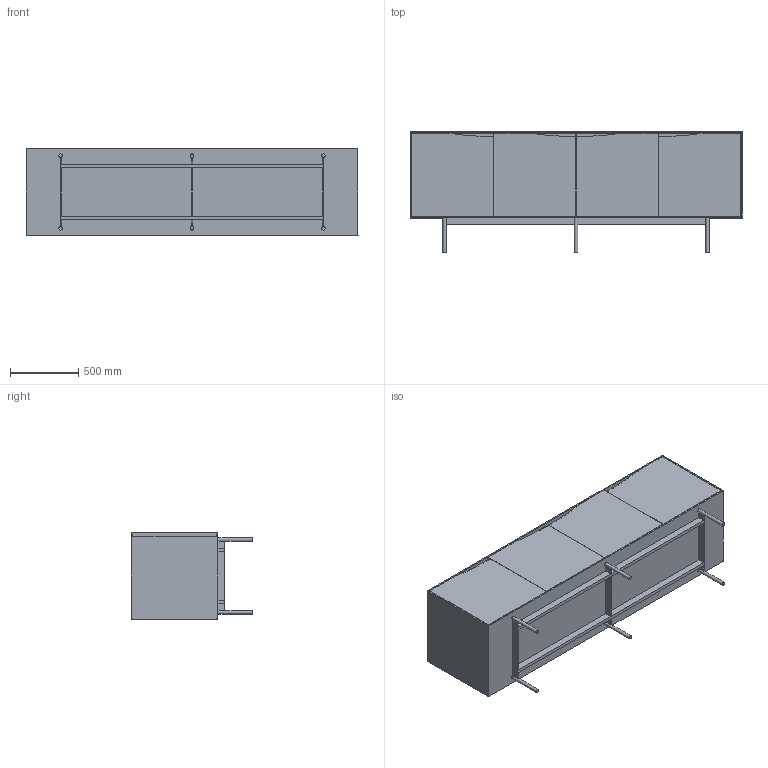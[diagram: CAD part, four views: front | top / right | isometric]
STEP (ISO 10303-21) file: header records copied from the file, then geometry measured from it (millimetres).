
FILE_DESCRIPTION(/* description */ ('','CAx-IF Rec.Pracs.---Representation and Presentation of Product Manufacturing Information (PMI)---4.0---2014-10-13'),/* implementation_level */ '2;1');
FILE_NAME(/* name */ 'CREDENZA STORAGE_PARAGON 1.stp',/* time_stamp */ '2024-12-07T18:31:18-05:00',/* author */ ('mbowman'),/* organization */ (''),/* preprocessor_version */ 'ST-DEVELOPER v19.2',/* originating_system */ 'Autodesk Inventor 2023',/* authorisation */ '');
FILE_SCHEMA (('AP242_MANAGED_MODEL_BASED_3D_ENGINEERING_MIM_LF { 1 0 10303 442 1 1 4 }'));
Length unit declared in the file: inch
Products named in the file (2): PARAGON^CREDENZA 1_35x96 4 DOORS-PARTS SOLID; PARAGON^CREDENZA 1_35x96 4 DOORS-PARTS SOLID_1
Assembly tree (1 placements, depth 2):
  PARAGON^CREDENZA 1_35x96 4 DOORS-PARTS SOLID
    PARAGON^CREDENZA 1_35x96 4 DOORS-PARTS SOLID_1
Bounding box: 2438.4 x 889 x 635 mm (x, y, z)
Volume: 185845921.9 mm3; surface area: 16910785.3 mm2
Topology: 16 solids, 16 shells, 162 faces, 390 edges, 260 vertices
Faces by surface type: plane 144, cylinder 14, bspline 4
Full cylindrical faces by diameter (mm): 25.4 x6
Entity records: 5809 total; most frequent: CARTESIAN_POINT 1290, DIRECTION 820, ORIENTED_EDGE 780, EDGE_CURVE 390, LINE 338, VECTOR 338, VERTEX_POINT 260, STYLED_ITEM 252
